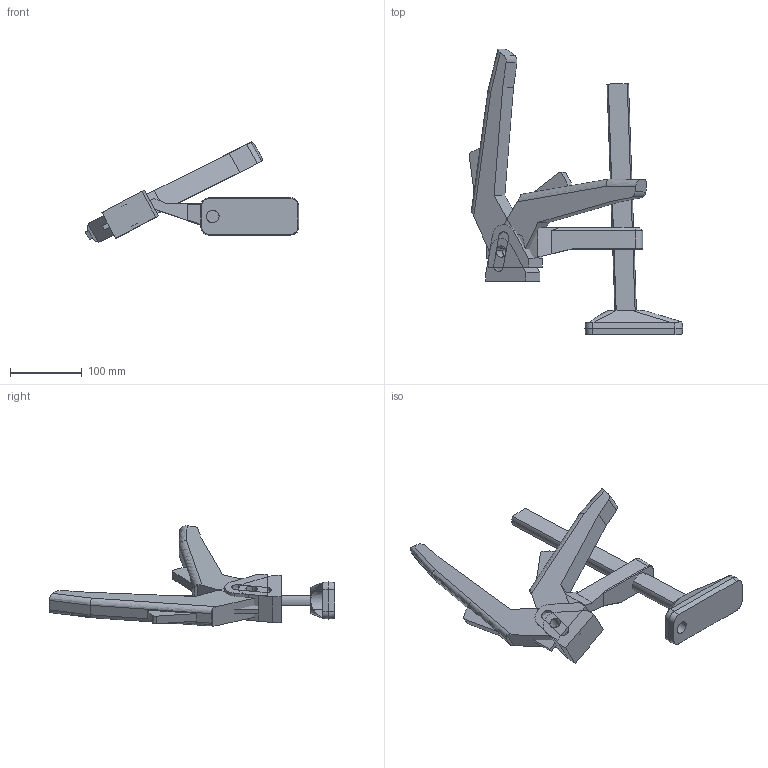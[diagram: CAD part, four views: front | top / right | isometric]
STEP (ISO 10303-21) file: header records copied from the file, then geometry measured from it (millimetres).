
FILE_DESCRIPTION( ( 'STEP AP214' ), '1' );
FILE_NAME( 'X:/CAD_Daten_Platzhalter/BS5N/BS5N001.stp', ' ', ( ' ' ), ( ' ' ), 'PSStep 11.0', ' ', ' ' );
FILE_SCHEMA( ( 'AUTOMOTIVE_DESIGN { 1 0 10303 214 1 1 1 1 }' ) );
Length unit declared in the file: metre
Products named in the file (6): 1; 2; 3; 4; 5; 6
Bounding box: 296.91 x 397.44 x 139.35 mm (x, y, z)
Volume: 1229288 mm3; surface area: 192135.5 mm2
Topology: 6 solids, 6 shells, 149 faces, 394 edges, 259 vertices
Faces by surface type: bspline 149
Entity records: 8618 total; most frequent: CARTESIAN_POINT 4944, ORIENTED_EDGE 788, EDGE_CURVE 394, B_SPLINE_CURVE_WITH_KNOTS 356, VERTEX_POINT 259, EDGE_LOOP 165, STYLED_ITEM 149, PRESENTATION_STYLE_ASSIGNMENT 149
